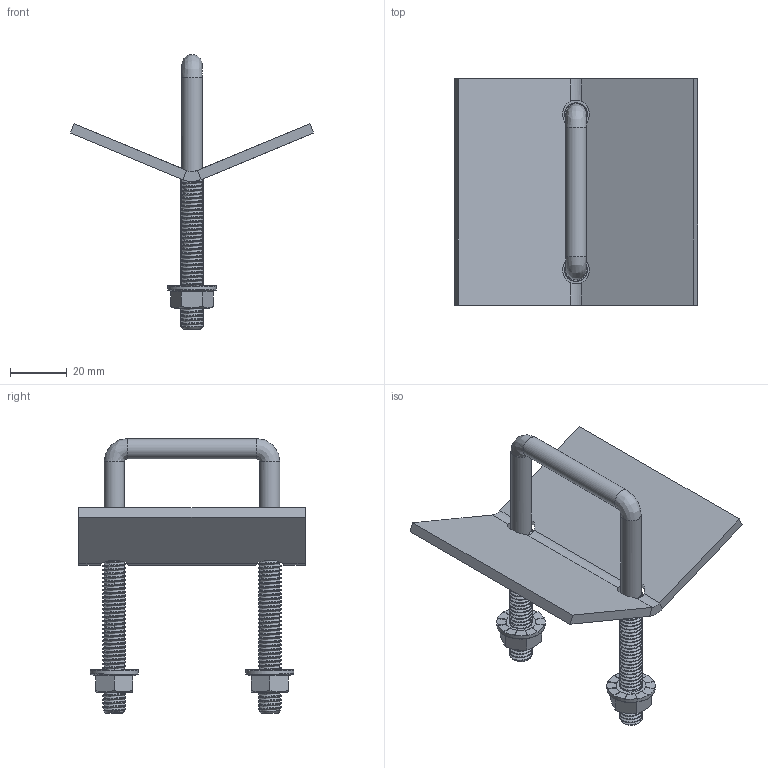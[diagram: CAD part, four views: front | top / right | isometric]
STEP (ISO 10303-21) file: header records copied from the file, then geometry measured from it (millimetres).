
FILE_DESCRIPTION(/* description */ (''),/* implementation_level */ '2;1');
FILE_NAME(/* name */ 'PDM',/* time_stamp */ '2025-03-13T20:19:36+01:00',/* author */ (''),/* organization */ (''),/* preprocessor_version */ 'ST-DEVELOPER v16.5',/* originating_system */ '',/* authorisation */ '');
FILE_SCHEMA (('CONFIG_CONTROL_DESIGN'));
Length unit declared in the file: millimetre
Products named in the file (2): Document; nut_M8_collar.part
Assembly tree (2 placements, depth 2):
  Document
    nut_M8_collar.part  x2
Bounding box: 86.03 x 80 x 97.2 mm (x, y, z)
Volume: 24943.3 mm3; surface area: 24386.3 mm2
Topology: 1 solids, 4 shells, 193 faces, 491 edges, 298 vertices
Faces by surface type: bspline 96, plane 56, cylinder 41
Full cylindrical faces by diameter (mm): 7.197 x3, 17.095 x2
Entity records: 45721 total; most frequent: CARTESIAN_POINT 43584, ORIENTED_EDGE 653, EDGE_CURVE 340, VERTEX_POINT 196, B_SPLINE_CURVE_WITH_KNOTS 145, EDGE_LOOP 132, ADVANCED_FACE 130, FACE_OUTER_BOUND 130
